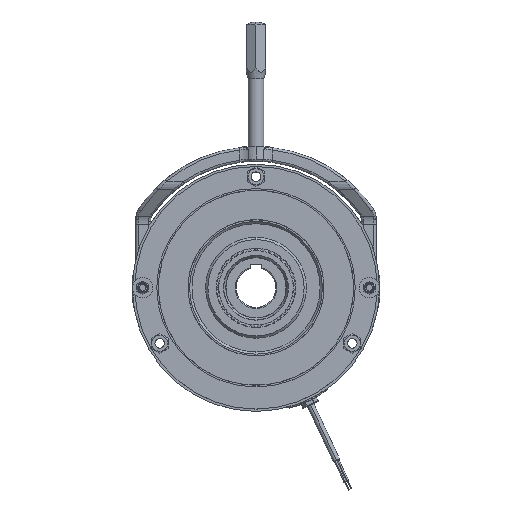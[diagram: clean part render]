
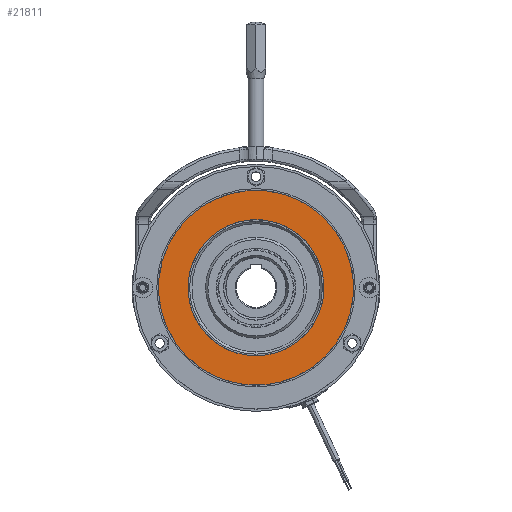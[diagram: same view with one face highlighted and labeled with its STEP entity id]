
A CAD part, top view. The second image highlights one B-rep face of the part: STEP entity #21811.
In plain terms, the highlighted planar face has unit normal (0, 0, 1).
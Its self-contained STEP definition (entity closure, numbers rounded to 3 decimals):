
#1232 = CARTESIAN_POINT ( 'NONE',  ( 0., 86., 2.5 ) ) ;
#1552 = CARTESIAN_POINT ( 'NONE',  ( 0., 0., 2.5 ) ) ;
#5586 = CIRCLE ( 'NONE', #13718, 60.05 ) ;
#5882 = EDGE_CURVE ( 'NONE', #63824, #68620, #22336, .T. ) ;
#6314 = PLANE ( 'NONE',  #8210 ) ;
#8210 = AXIS2_PLACEMENT_3D ( 'NONE', #1232, #45449, #40030 ) ;
#8315 = EDGE_CURVE ( 'NONE', #68620, #63824, #54219, .T. ) ;
#12600 = AXIS2_PLACEMENT_3D ( 'NONE', #59745, #37671, #33692 ) ;
#13718 = AXIS2_PLACEMENT_3D ( 'NONE', #24528, #29601, #46231 ) ;
#17506 = ORIENTED_EDGE ( 'NONE', *, *, #64037, .F. ) ;
#21811 = ADVANCED_FACE ( 'NONE', ( #22287, #66512 ), #6314, .T. ) ;
#22287 = FACE_OUTER_BOUND ( 'NONE', #36791, .T. ) ;
#22336 = CIRCLE ( 'NONE', #54745, 86. ) ;
#22511 = CARTESIAN_POINT ( 'NONE',  ( 8.01, 85.626, 2.5 ) ) ;
#24528 = CARTESIAN_POINT ( 'NONE',  ( 0., 0., 2.5 ) ) ;
#29601 = DIRECTION ( 'NONE',  ( 0., 0., 1. ) ) ;
#30163 = ORIENTED_EDGE ( 'NONE', *, *, #43083, .F. ) ;
#31270 = VERTEX_POINT ( 'NONE', #34077 ) ;
#32323 = DIRECTION ( 'NONE',  ( 0., 0., 1. ) ) ;
#33692 = DIRECTION ( 'NONE',  ( 1., 0., 0. ) ) ;
#34077 = CARTESIAN_POINT ( 'NONE',  ( 5.593, 59.789, 2.5 ) ) ;
#36791 = EDGE_LOOP ( 'NONE', ( #62035, #57601 ) ) ;
#37671 = DIRECTION ( 'NONE',  ( 0., 0., 1. ) ) ;
#38951 = VERTEX_POINT ( 'NONE', #70927 ) ;
#40030 = DIRECTION ( 'NONE',  ( 1., 0., 0. ) ) ;
#43083 = EDGE_CURVE ( 'NONE', #38951, #31270, #5586, .T. ) ;
#45375 = DIRECTION ( 'NONE',  ( 0., 0., 1. ) ) ;
#45449 = DIRECTION ( 'NONE',  ( 0., 0., 1. ) ) ;
#46231 = DIRECTION ( 'NONE',  ( 1., 0., 0. ) ) ;
#51315 = EDGE_LOOP ( 'NONE', ( #30163, #17506 ) ) ;
#51837 = CARTESIAN_POINT ( 'NONE',  ( -8.01, -85.626, 2.5 ) ) ;
#54219 = CIRCLE ( 'NONE', #63563, 86. ) ;
#54745 = AXIS2_PLACEMENT_3D ( 'NONE', #1552, #45375, #67158 ) ;
#57601 = ORIENTED_EDGE ( 'NONE', *, *, #5882, .T. ) ;
#59745 = CARTESIAN_POINT ( 'NONE',  ( 0., 0., 2.5 ) ) ;
#59807 = DIRECTION ( 'NONE',  ( 1., 0., 0. ) ) ;
#62035 = ORIENTED_EDGE ( 'NONE', *, *, #8315, .T. ) ;
#63563 = AXIS2_PLACEMENT_3D ( 'NONE', #64610, #32323, #59807 ) ;
#63824 = VERTEX_POINT ( 'NONE', #22511 ) ;
#64037 = EDGE_CURVE ( 'NONE', #31270, #38951, #66887, .T. ) ;
#64610 = CARTESIAN_POINT ( 'NONE',  ( 0., 0., 2.5 ) ) ;
#66512 = FACE_BOUND ( 'NONE', #51315, .T. ) ;
#66887 = CIRCLE ( 'NONE', #12600, 60.05 ) ;
#67158 = DIRECTION ( 'NONE',  ( 1., 0., 0. ) ) ;
#68620 = VERTEX_POINT ( 'NONE', #51837 ) ;
#70927 = CARTESIAN_POINT ( 'NONE',  ( -5.593, -59.789, 2.5 ) ) ;
